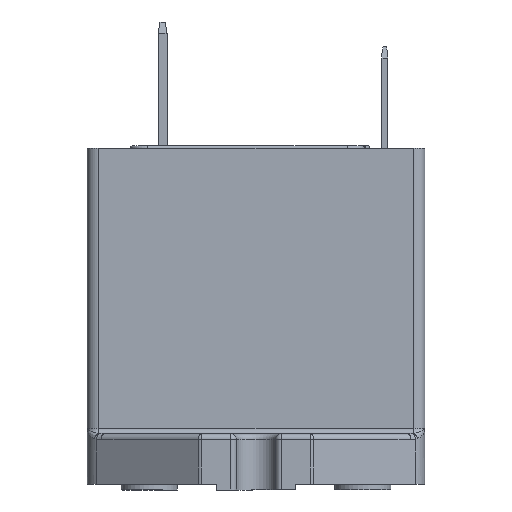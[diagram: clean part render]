
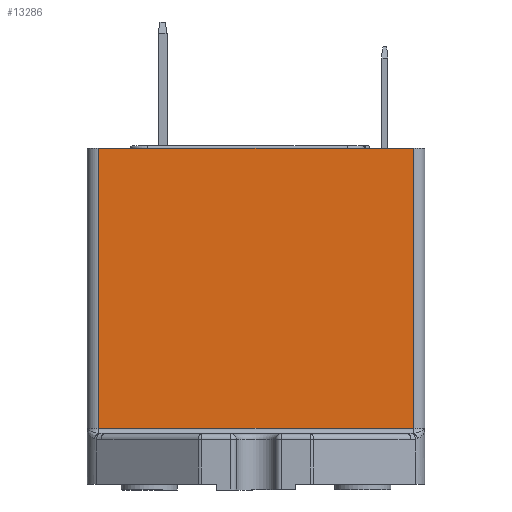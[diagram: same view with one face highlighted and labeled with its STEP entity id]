
A CAD part, left-side view. The second image highlights one B-rep face of the part: STEP entity #13286.
In plain terms, the highlighted planar face has unit normal (-1, 0, 0) as drawn and (0, -1, 0) by its records, which use the part's own axes.
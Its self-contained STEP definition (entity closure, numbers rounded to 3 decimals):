
#527 = PLANE ( 'NONE',  #42608 ) ;
#1780 = VECTOR ( 'NONE', #28650, 1000. ) ;
#2362 = EDGE_CURVE ( 'NONE', #4405, #46200, #11261, .T. ) ;
#2603 = VECTOR ( 'NONE', #6633, 1000. ) ;
#4119 = DIRECTION ( 'NONE',  ( 0., 1., 0. ) ) ;
#4405 = VERTEX_POINT ( 'NONE', #35129 ) ;
#4650 = ORIENTED_EDGE ( 'NONE', *, *, #32536, .T. ) ;
#6633 = DIRECTION ( 'NONE',  ( -1., 0., 0. ) ) ;
#6668 = CARTESIAN_POINT ( 'NONE',  ( 14.159, -14.6, 28.6 ) ) ;
#7514 = CARTESIAN_POINT ( 'NONE',  ( -10.741, -14.6, 14.6 ) ) ;
#9335 = LINE ( 'NONE', #7514, #19903 ) ;
#11261 = LINE ( 'NONE', #39221, #1780 ) ;
#12834 = FACE_OUTER_BOUND ( 'NONE', #41989, .T. ) ;
#12980 = CARTESIAN_POINT ( 'NONE',  ( 14.159, -14.6, 28.6 ) ) ;
#13286 = ADVANCED_FACE ( 'NONE', ( #12834 ), #527, .F. ) ;
#15437 = VECTOR ( 'NONE', #38550, 1000. ) ;
#16170 = VERTEX_POINT ( 'NONE', #21356 ) ;
#19484 = ORIENTED_EDGE ( 'NONE', *, *, #39170, .F. ) ;
#19903 = VECTOR ( 'NONE', #28791, 1000. ) ;
#21356 = CARTESIAN_POINT ( 'NONE',  ( -10.741, -14.6, 28.6 ) ) ;
#22620 = LINE ( 'NONE', #24361, #2603 ) ;
#24361 = CARTESIAN_POINT ( 'NONE',  ( -10.741, -14.6, 28.6 ) ) ;
#27608 = CARTESIAN_POINT ( 'NONE',  ( 14.159, -14.6, 0.6 ) ) ;
#28650 = DIRECTION ( 'NONE',  ( 1., 0., 0. ) ) ;
#28791 = DIRECTION ( 'NONE',  ( 0., 0., 1. ) ) ;
#28951 = DIRECTION ( 'NONE',  ( 1., 0., 0. ) ) ;
#30272 = ORIENTED_EDGE ( 'NONE', *, *, #2362, .T. ) ;
#30646 = ORIENTED_EDGE ( 'NONE', *, *, #33031, .T. ) ;
#32536 = EDGE_CURVE ( 'NONE', #46200, #37277, #43813, .T. ) ;
#33031 = EDGE_CURVE ( 'NONE', #37277, #16170, #22620, .T. ) ;
#35129 = CARTESIAN_POINT ( 'NONE',  ( -10.741, -14.6, 0.6 ) ) ;
#37277 = VERTEX_POINT ( 'NONE', #12980 ) ;
#38550 = DIRECTION ( 'NONE',  ( 0., 0., 1. ) ) ;
#39170 = EDGE_CURVE ( 'NONE', #4405, #16170, #9335, .T. ) ;
#39221 = CARTESIAN_POINT ( 'NONE',  ( -10.741, -14.6, 0.6 ) ) ;
#41989 = EDGE_LOOP ( 'NONE', ( #30272, #4650, #30646, #19484 ) ) ;
#42608 = AXIS2_PLACEMENT_3D ( 'NONE', #43126, #4119, #28951 ) ;
#43126 = CARTESIAN_POINT ( 'NONE',  ( -10.741, -14.6, -0.4 ) ) ;
#43813 = LINE ( 'NONE', #6668, #15437 ) ;
#46200 = VERTEX_POINT ( 'NONE', #27608 ) ;
